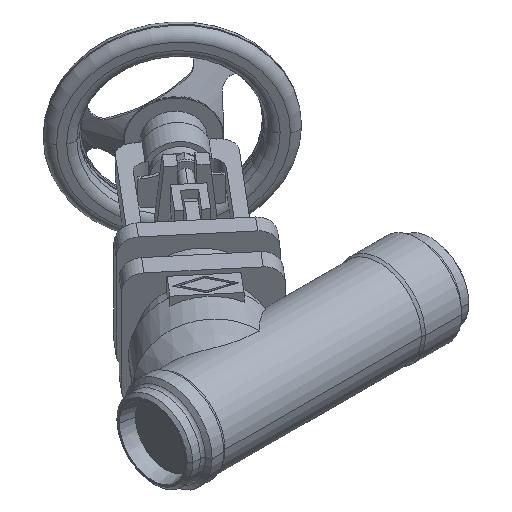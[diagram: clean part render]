
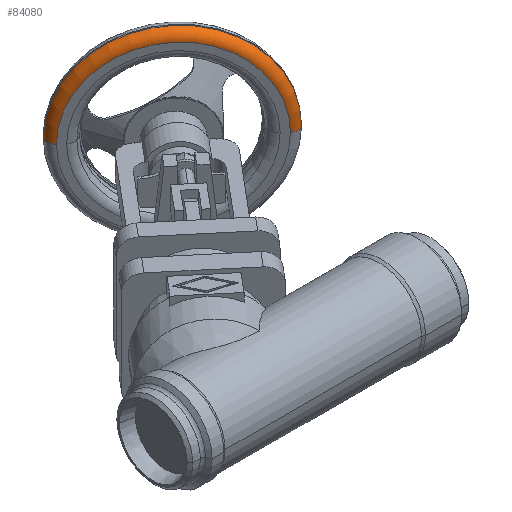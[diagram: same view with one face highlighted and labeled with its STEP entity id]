
A CAD part, isometric view. The second image highlights one B-rep face of the part: STEP entity #84080.
In plain terms, the highlighted toroidal (fillet/blend) face has major radius 68 mm and minor radius 7 mm.
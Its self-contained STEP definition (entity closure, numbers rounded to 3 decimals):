
#83290=CARTESIAN_POINT('',(171.227,260.557,0.));
#83300=VERTEX_POINT('',#83290);
#83500=CARTESIAN_POINT('',(286.134,164.138,0.));
#83510=VERTEX_POINT('',#83500);
#83540=CARTESIAN_POINT('',(228.681,212.348,0.));
#83550=DIRECTION('',(0.643,0.766,0.));
#83560=DIRECTION('',(-0.766,0.643,
0.));
#83570=AXIS2_PLACEMENT_3D('',#83540,#83550,#83560);
#83580=CIRCLE('',#83570,75.);
#83590=EDGE_CURVE('',#83300,#83510,#83580,.T.);
#83710=CARTESIAN_POINT('',(228.681,212.348,0.));
#83720=DIRECTION('',(0.643,0.766,0.));
#83730=DIRECTION('',(0.766,-0.643,0.));
#83740=AXIS2_PLACEMENT_3D('',#83710,#83720,#83730);
#83750=TOROIDAL_SURFACE('',#83740,68.,7.);
#83760=CARTESIAN_POINT('',(176.59,256.057,0.));
#83770=DIRECTION('',(0.,0.,1.));
#83780=DIRECTION('',(0.174,-0.985,0.));
#83790=AXIS2_PLACEMENT_3D('',#83760,#83770,#83780);
#83800=CIRCLE('',#83790,7.);
#83810=CARTESIAN_POINT('',(172.09,250.695,0.));
#83820=VERTEX_POINT('',#83810);
#83830=EDGE_CURVE('',#83300,#83820,#83800,.T.);
#83840=ORIENTED_EDGE('',*,*,#83830,.T.);
#83850=ORIENTED_EDGE('',*,*,#83590,.F.);
#83860=CARTESIAN_POINT('',(280.772,168.638,0.));
#83870=DIRECTION('',(0.,0.,-1.));
#83880=DIRECTION('',(-1.,0.,0.));
#83890=AXIS2_PLACEMENT_3D('',#83860,#83870,#83880);
#83900=CIRCLE('',#83890,7.);
#83910=CARTESIAN_POINT('',(276.272,163.276,0.));
#83920=VERTEX_POINT('',#83910);
#83930=EDGE_CURVE('',#83510,#83920,#83900,.T.);
#83940=ORIENTED_EDGE('',*,*,#83930,.F.);
#83950=CARTESIAN_POINT('',(224.181,206.985,0.));
#83960=DIRECTION('',(0.643,0.766,0.));
#83970=DIRECTION('',(-0.766,0.643,
0.));
#83980=AXIS2_PLACEMENT_3D('',#83950,#83960,#83970);
#83990=CIRCLE('',#83980,68.);
#84000=CARTESIAN_POINT('',(224.181,206.985,68.));
#84010=VERTEX_POINT('',#84000);
#84020=EDGE_CURVE('',#84010,#83920,#83990,.T.);
#84030=ORIENTED_EDGE('',*,*,#84020,.T.);
#84040=EDGE_CURVE('',#83820,#84010,#83990,.T.);
#84050=ORIENTED_EDGE('',*,*,#84040,.T.);
#84060=EDGE_LOOP('',(#84050,#84030,#83940,#83850,#83840));
#84070=FACE_OUTER_BOUND('',#84060,.T.);
#84080=ADVANCED_FACE('',(#84070),#83750,.T.);
